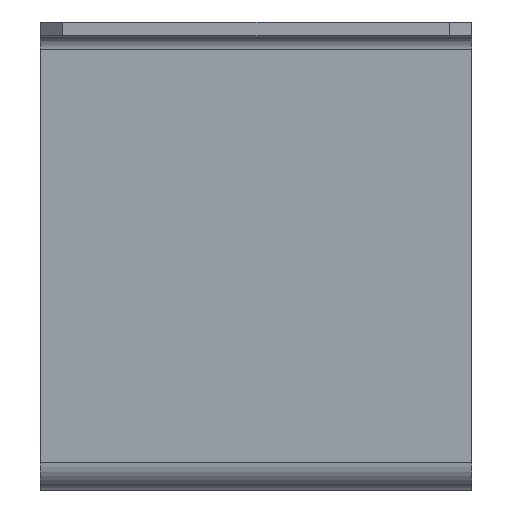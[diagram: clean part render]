
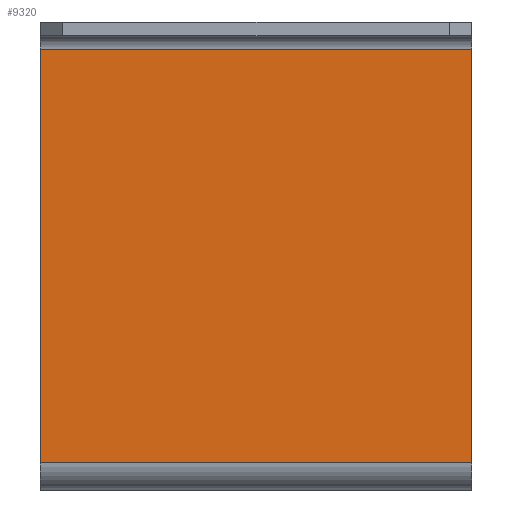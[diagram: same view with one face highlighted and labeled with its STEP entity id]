
A CAD part, left-side view. The second image highlights one B-rep face of the part: STEP entity #9320.
In plain terms, the highlighted planar face has unit normal (-1, 0, 0) as drawn and (1, 0, 0) by its records, which use the part's own axes.
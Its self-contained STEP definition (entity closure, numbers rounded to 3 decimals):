
#8740=CARTESIAN_POINT('',(-152.189,0.,197.5));
#8750=DIRECTION('',(0.,1.,0.));
#8760=VECTOR('',#8750,1.);
#8770=LINE('',#8740,#8760);
#8780=CARTESIAN_POINT('',(-152.189,-95.,197.5));
#8790=VERTEX_POINT('',#8780);
#8800=CARTESIAN_POINT('',(-152.189,0.,197.5));
#8810=VERTEX_POINT('',#8800);
#8820=EDGE_CURVE('',#8790,#8810,#8770,.T.);
#9020=CARTESIAN_POINT('',(-152.189,-141.,223.822));
#9030=DIRECTION('',(-1.,-0.,-0.));
#9040=DIRECTION('',(0.,0.,-1.));
#9050=AXIS2_PLACEMENT_3D('',#9020,#9030,#9040);
#9060=PLANE('',#9050);
#9070=ORIENTED_EDGE('',*,*,#8820,.F.);
#9080=CARTESIAN_POINT('',(-152.189,0.,-150.457));
#9090=DIRECTION('',(0.,0.,1.));
#9100=VECTOR('',#9090,1.);
#9110=LINE('',#9080,#9100);
#9120=CARTESIAN_POINT('',(-152.189,0.,106.5));
#9130=VERTEX_POINT('',#9120);
#9140=EDGE_CURVE('',#9130,#8810,#9110,.T.);
#9150=ORIENTED_EDGE('',*,*,#9140,.T.);
#9160=CARTESIAN_POINT('',(-152.189,0.,106.5));
#9170=DIRECTION('',(0.,1.,0.));
#9180=VECTOR('',#9170,1.);
#9190=LINE('',#9160,#9180);
#9200=CARTESIAN_POINT('',(-152.189,-95.,106.5));
#9210=VERTEX_POINT('',#9200);
#9220=EDGE_CURVE('',#9210,#9130,#9190,.T.);
#9230=ORIENTED_EDGE('',*,*,#9220,.T.);
#9240=CARTESIAN_POINT('',(-152.189,-95.,-150.457));
#9250=DIRECTION('',(0.,0.,-1.));
#9260=VECTOR('',#9250,1.);
#9270=LINE('',#9240,#9260);
#9280=EDGE_CURVE('',#8790,#9210,#9270,.T.);
#9290=ORIENTED_EDGE('',*,*,#9280,.T.);
#9300=EDGE_LOOP('',(#9290,#9230,#9150,#9070));
#9310=FACE_OUTER_BOUND('',#9300,.T.);
#9320=ADVANCED_FACE('',(#9310),#9060,.F.);
